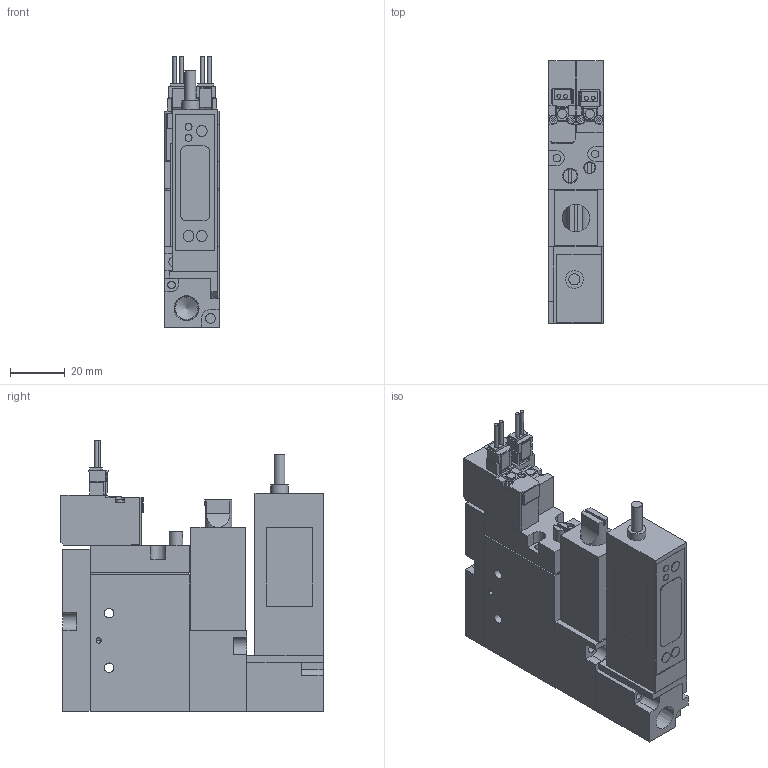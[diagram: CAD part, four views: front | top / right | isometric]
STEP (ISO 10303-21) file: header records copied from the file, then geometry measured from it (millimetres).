
FILE_DESCRIPTION(('STEP AP203'),'1');
FILE_NAME('BMPV32S2NV(R)G25AL.stp','2025-06-17T01:52:18',(' '),(' '),'Spatial InterOp 3D',' ',' ');
FILE_SCHEMA(('CONFIG_CONTROL_DESIGN'));
Length unit declared in the file: millimetre
Products named in the file (14): BMPV32S2NV(R)G25AL; Pressure sensor VGL; __ ___ (Rc); ___-3(Rc); Filter Assy; __; _____; ___ ___; ___; upper plate-A; ______; ____; VACUUM VALVE FUNCTION MPV42-A; UV280-4E
Assembly tree (13 placements, depth 2):
  BMPV32S2NV(R)G25AL
    Pressure sensor VGL
    __ ___ (Rc)
    ___-3(Rc)
    Filter Assy
    __
    _____
    ___ ___
    ___
    upper plate-A
    ______
    ____
    VACUUM VALVE FUNCTION MPV42-A
    UV280-4E
Bounding box: 20 x 96.2 x 99.25 mm (x, y, z)
Volume: 122018.9 mm3; surface area: 40755.3 mm2
Topology: 13 solids, 13 shells, 403 faces, 1046 edges, 695 vertices
Faces by surface type: plane 324, cylinder 70, cone 9
Full cylindrical faces by diameter (mm): 1.4 x4, 1.8 x2, 2 x2, 2.5 x4, 2.8 x4, 3 x4, 3.5 x10, 4 x5, 4.2 x1, 5 x1, 5.5 x1, 6.5 x2, 8.2 x1, 8.759 x1
Entity records: 12621 total; most frequent: CARTESIAN_POINT 2144, DIRECTION 1979, ORIENTED_EDGE 1946, EDGE_CURVE 973, LINE 793, VECTOR 793, VERTEX_POINT 680, AXIS2_PLACEMENT_3D 593
